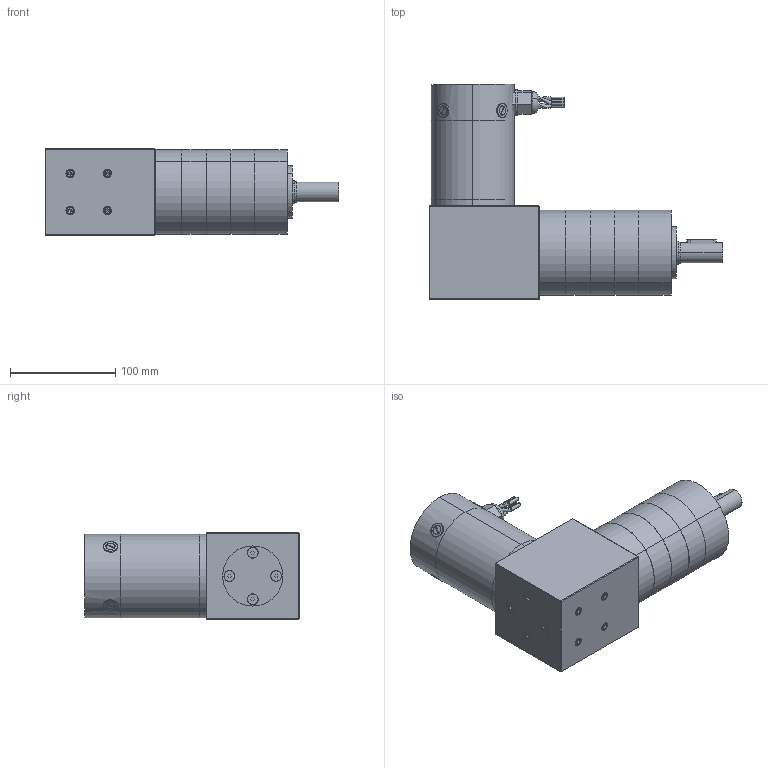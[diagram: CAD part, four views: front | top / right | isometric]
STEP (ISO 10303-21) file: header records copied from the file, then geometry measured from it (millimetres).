
FILE_DESCRIPTION (( 'STEP AP203' ), '1' );
FILE_NAME ('d33455agra4.step', '2018-12-07T19:36:31', ( '' ), ( '' ), 'SwSTEP 2.0', 'SolidWorks 2017', '' );
FILE_SCHEMA (( 'CONFIG_CONTROL_DESIGN' ));
Length unit declared in the file: inch
Products named in the file (1): d33455agra4
Bounding box: 278.98 x 204.5 x 82.55 mm (x, y, z)
Volume: 2012508.7 mm3; surface area: 222079.3 mm2
Topology: 29 solids, 29 shells, 1247 faces, 3123 edges, 1979 vertices
Faces by surface type: cylinder 719, plane 364, cone 101, torus 39, bspline 16, sphere 8
Entity records: 57069 total; most frequent: CARTESIAN_POINT 29808, ORIENTED_EDGE 6198, DIRECTION 5276, EDGE_CURVE 3099, AXIS2_PLACEMENT_3D 1991, VERTEX_POINT 1979, EDGE_LOOP 1352, LINE 1294
